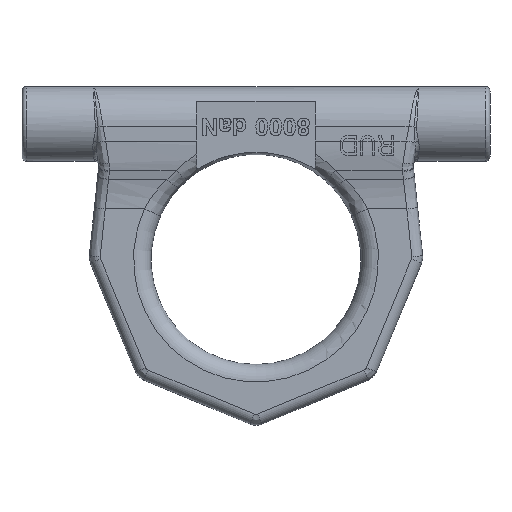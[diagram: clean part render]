
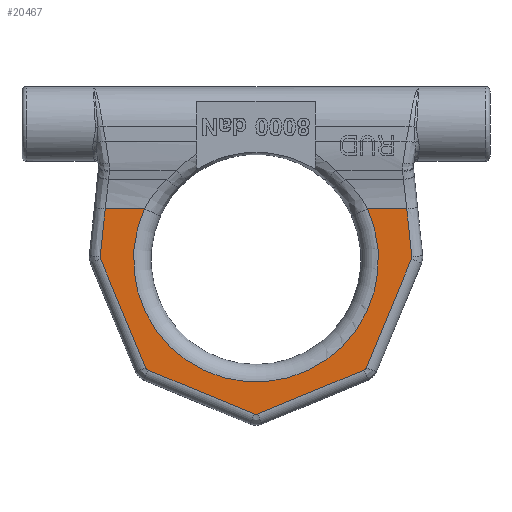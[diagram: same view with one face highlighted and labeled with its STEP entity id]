
A CAD part, front view. The second image highlights one B-rep face of the part: STEP entity #20467.
In plain terms, the highlighted planar face has unit normal (0, -1, 0).
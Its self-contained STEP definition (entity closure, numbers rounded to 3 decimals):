
#3657=CARTESIAN_POINT('',(0.,-7.,0.));
#3658=DIRECTION('',(0.,-1.,0.));
#3659=DIRECTION('',(-0.91,0.,0.414));
#3660=AXIS2_PLACEMENT_3D('',#3657,#3658,#3659);
#3681=CARTESIAN_POINT('',(34.469,-7.,11.582));
#3695=CARTESIAN_POINT('',(25.492,-7.,11.582));
#6488=CARTESIAN_POINT('',(-25.492,-7.,
11.582));
#6493=CARTESIAN_POINT('',(35.621,-7.,0.623));
#6494=CARTESIAN_POINT('',(35.482,-7.,1.944));
#6495=CARTESIAN_POINT('',(35.211,-7.,4.518));
#6496=CARTESIAN_POINT('',(34.828,-7.,8.164));
#6497=CARTESIAN_POINT('',(34.586,-7.,10.465));
#6498=CARTESIAN_POINT('',(34.469,-7.,11.582));
#6503=CARTESIAN_POINT('',(34.626,-7.,0.518));
#6504=DIRECTION('',(0.,-1.,0.));
#6505=DIRECTION('',(0.924,0.,-0.383));
#6506=AXIS2_PLACEMENT_3D('',#6503,#6504,#6505);
#6511=DIRECTION('',(0.383,0.,0.924));
#6512=VECTOR('',#6511,26.898);
#6513=CARTESIAN_POINT('',(25.257,-7.,-24.715));
#6514=LINE('43146',#6513,#6512);
#6518=CARTESIAN_POINT('',(24.333,-7.,-24.333));
#6519=DIRECTION('',(0.,-1.,0.));
#6520=DIRECTION('',(0.383,0.,-0.924));
#6521=AXIS2_PLACEMENT_3D('',#6518,#6519,#6520);
#6526=DIRECTION('',(0.924,0.,0.383));
#6527=VECTOR('',#6526,26.338);
#6528=CARTESIAN_POINT('',(0.383,-7.,-35.336));
#6529=LINE('43150',#6528,#6527);
#6533=CARTESIAN_POINT('',(0.,-7.,-34.412));
#6534=DIRECTION('',(0.,-1.,0.));
#6535=DIRECTION('',(-0.383,0.,-0.924));
#6536=AXIS2_PLACEMENT_3D('',#6533,#6534,#6535);
#6541=DIRECTION('',(0.924,0.,-0.383));
#6542=VECTOR('',#6541,26.338);
#6543=CARTESIAN_POINT('',(-24.715,-7.,-25.257));
#6544=LINE('43154',#6543,#6542);
#6548=CARTESIAN_POINT('',(-24.333,-7.,-24.333));
#6549=DIRECTION('',(0.,-1.,0.));
#6550=DIRECTION('',(-0.924,0.,-0.383));
#6551=AXIS2_PLACEMENT_3D('',#6548,#6549,#6550);
#6556=DIRECTION('',(0.383,0.,-0.924));
#6557=VECTOR('',#6556,26.898);
#6558=CARTESIAN_POINT('',(-35.55,-7.,0.135));
#6559=LINE('43158',#6558,#6557);
#6563=CARTESIAN_POINT('',(-34.626,-7.,0.518));
#6564=DIRECTION('',(0.,-1.,0.));
#6565=DIRECTION('',(-0.995,0.,0.105));
#6566=AXIS2_PLACEMENT_3D('',#6563,#6564,#6565);
#6571=CARTESIAN_POINT('',(-34.469,-7.,
11.582));
#6572=CARTESIAN_POINT('',(-34.586,-7.,
10.464));
#6573=CARTESIAN_POINT('',(-34.828,-7.,
8.162));
#6574=CARTESIAN_POINT('',(-35.212,-7.,
4.516));
#6575=CARTESIAN_POINT('',(-35.482,-7.,1.943));
#6576=CARTESIAN_POINT('',(-35.621,-7.,0.623));
#6581=DIRECTION('',(1.,0.,0.));
#6582=VECTOR('',#6581,8.977);
#6583=CARTESIAN_POINT('',(-34.469,-7.,
11.582));
#6584=LINE('43177',#6583,#6582);
#6588=DIRECTION('',(1.,0.,0.));
#6589=VECTOR('',#6588,8.977);
#6590=CARTESIAN_POINT('',(25.492,-7.,11.582));
#6591=LINE('43175',#6590,#6589);
#13746=VERTEX_POINT('',#6488);
#13752=VERTEX_POINT('',#3695);
#13841=VERTEX_POINT('',#3681);
#13843=VERTEX_POINT('',#6493);
#13846=CARTESIAN_POINT('',(35.55,-7.,0.135));
#13847=VERTEX_POINT('',#13846);
#13850=CARTESIAN_POINT('',(25.257,-7.,-24.715));
#13851=VERTEX_POINT('',#13850);
#13854=CARTESIAN_POINT('',(24.715,-7.,-25.257));
#13855=VERTEX_POINT('',#13854);
#13858=CARTESIAN_POINT('',(0.383,-7.,-35.336));
#13859=VERTEX_POINT('',#13858);
#13864=CARTESIAN_POINT('',(-24.715,-7.,-25.257));
#13865=CARTESIAN_POINT('',(-0.383,-7.,-35.336));
#13866=VERTEX_POINT('',#13864);
#13867=VERTEX_POINT('',#13865);
#13870=CARTESIAN_POINT('',(-25.257,-7.,-24.715));
#13871=VERTEX_POINT('',#13870);
#13874=CARTESIAN_POINT('',(-35.55,-7.,0.135));
#13875=VERTEX_POINT('',#13874);
#13878=CARTESIAN_POINT('',(-35.621,-7.,0.623));
#13879=VERTEX_POINT('',#13878);
#13881=VERTEX_POINT('',#6571);
#20446=CARTESIAN_POINT('',(52.,-7.,-40.));
#20447=DIRECTION('',(0.,-1.,0.));
#20448=DIRECTION('',(0.,0.,1.));
#20449=AXIS2_PLACEMENT_3D('',#20446,#20447,#20448);
#20450=PLANE('35381',#20449);
#20451=ORIENTED_EDGE('43142',*,*,#17898,.F.);
#20452=ORIENTED_EDGE('43144',*,*,#17924,.F.);
#20453=ORIENTED_EDGE('43146',*,*,#17938,.F.);
#20454=ORIENTED_EDGE('43148',*,*,#17964,.F.);
#20455=ORIENTED_EDGE('43150',*,*,#17978,.F.);
#20456=ORIENTED_EDGE('43471',*,*,#18003,.F.);
#20457=ORIENTED_EDGE('43154',*,*,#18018,.F.);
#20458=ORIENTED_EDGE('43156',*,*,#18044,.F.);
#20459=ORIENTED_EDGE('43158',*,*,#18058,.F.);
#20460=ORIENTED_EDGE('43160',*,*,#18084,.F.);
#20461=ORIENTED_EDGE('43162',*,*,#18118,.F.);
#20462=ORIENTED_EDGE('43177',*,*,#20441,.T.);
#20463=ORIENTED_EDGE('41726',*,*,#17763,.T.);
#20464=ORIENTED_EDGE('43175',*,*,#17812,.T.);
#20465=EDGE_LOOP('35381',(#20451,#20452,#20453,#20454,#20455,#20456,#20457,
#20458,#20459,#20460,#20461,#20462,#20463,#20464));
#20466=FACE_OUTER_BOUND('35381',#20465,.F.);
#3661=CIRCLE('41726',#3660,28.);
#6499=B_SPLINE_CURVE_WITH_KNOTS('43142',3,(#6493,#6494,#6495,#6496,#6497,#6498),
.UNSPECIFIED.,.F.,.F.,(4,1,1,4),(0.,0.333,0.667,1.),
.UNSPECIFIED.);
#6507=CIRCLE('43144',#6506,1.);
#6522=CIRCLE('43148',#6521,1.);
#6537=CIRCLE('43471',#6536,1.);
#6552=CIRCLE('43156',#6551,1.);
#6567=CIRCLE('43160',#6566,1.);
#6577=B_SPLINE_CURVE_WITH_KNOTS('43162',3,(#6571,#6572,#6573,#6574,#6575,#6576),
.UNSPECIFIED.,.F.,.F.,(4,1,1,4),(0.,0.333,0.667,1.),
.UNSPECIFIED.);
#17763=EDGE_CURVE('41726',#13746,#13752,#3661,.T.);
#17812=EDGE_CURVE('43175',#13752,#13841,#6591,.T.);
#17898=EDGE_CURVE('43142',#13843,#13841,#6499,.T.);
#17924=EDGE_CURVE('43144',#13847,#13843,#6507,.T.);
#17938=EDGE_CURVE('43146',#13851,#13847,#6514,.T.);
#17964=EDGE_CURVE('43148',#13855,#13851,#6522,.T.);
#17978=EDGE_CURVE('43150',#13859,#13855,#6529,.T.);
#18003=EDGE_CURVE('43471',#13867,#13859,#6537,.T.);
#18018=EDGE_CURVE('43154',#13866,#13867,#6544,.T.);
#18044=EDGE_CURVE('43156',#13871,#13866,#6552,.T.);
#18058=EDGE_CURVE('43158',#13875,#13871,#6559,.T.);
#18084=EDGE_CURVE('43160',#13879,#13875,#6567,.T.);
#18118=EDGE_CURVE('43162',#13881,#13879,#6577,.T.);
#20441=EDGE_CURVE('43177',#13881,#13746,#6584,.T.);
#20467=ADVANCED_FACE('35381',(#20466),#20450,.T.);
